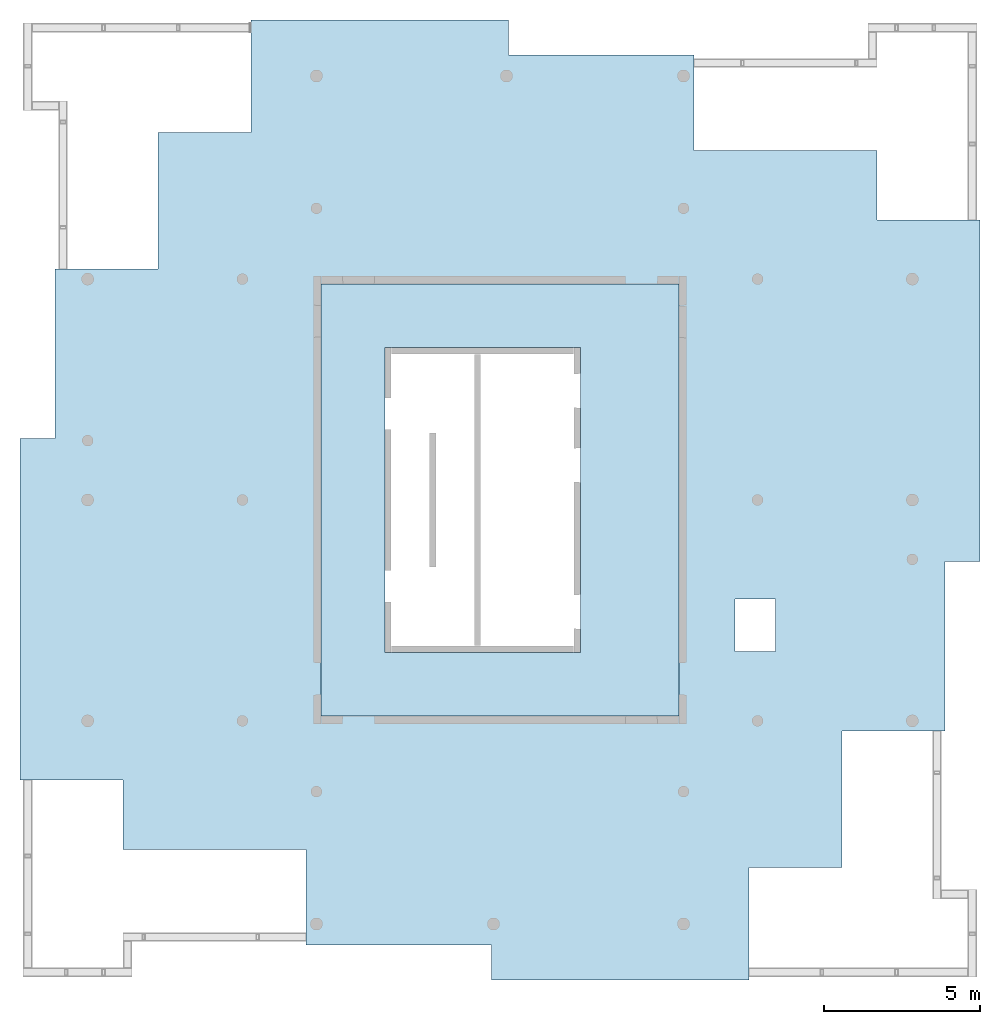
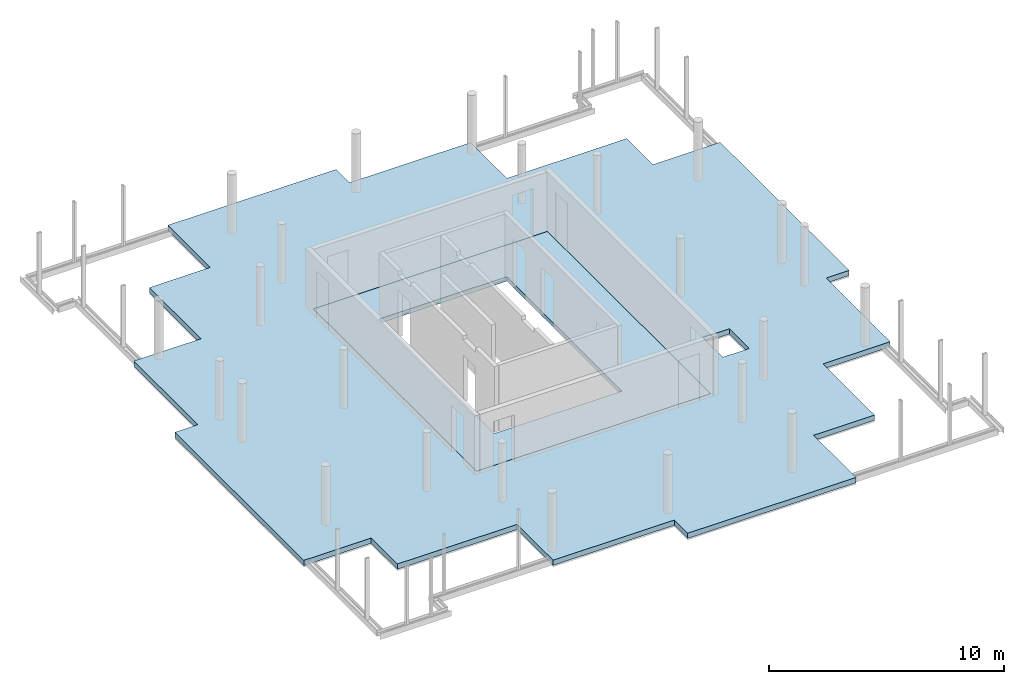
# One storey, part 7 of 7: 2 slabs.
"""IFC2X3 building model written with IfcOpenShell, lengths in millimetres."""

from ifc_helpers import new_model, entity, si_unit, converted_unit, derived_unit, direction, frame, origin, place, context, subcontext, project, spatial, faceted_brep, material, element, save


model = new_model("IFC2X3")

# Units and contexts
model_context = context("Model", 3, precision=0.01, world=origin(), true_north=direction((6.12303176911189e-17, 1.0)))
body_context = subcontext(model_context, "Body", "Model", "MODEL_VIEW")
ifc_project = project(units=[si_unit("LENGTHUNIT", "METRE", prefix="MILLI"), si_unit("AREAUNIT", "SQUARE_METRE"), si_unit("VOLUMEUNIT", "CUBIC_METRE"), converted_unit("PLANEANGLEUNIT", "DEGREE", entity("IfcRatioMeasure", 0.0174532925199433), si_unit("PLANEANGLEUNIT", "RADIAN"), dimensions=[0, 0, 0, 0, 0, 0, 0]), si_unit("MASSUNIT", "GRAM", prefix="KILO"), derived_unit("MASSDENSITYUNIT", [(si_unit("MASSUNIT", "GRAM", prefix="KILO"), 1), (si_unit("LENGTHUNIT", "METRE"), -3)]), si_unit("TIMEUNIT", "SECOND"), si_unit("FREQUENCYUNIT", "HERTZ"), si_unit("THERMODYNAMICTEMPERATUREUNIT", "DEGREE_CELSIUS"), derived_unit("THERMALTRANSMITTANCEUNIT", [(si_unit("MASSUNIT", "GRAM", prefix="KILO"), 1), (si_unit("THERMODYNAMICTEMPERATUREUNIT", "KELVIN"), -1), (si_unit("TIMEUNIT", "SECOND"), -3)]), derived_unit("VOLUMETRICFLOWRATEUNIT", [(si_unit("LENGTHUNIT", "METRE"), 3), (si_unit("TIMEUNIT", "SECOND"), -1)]), si_unit("ELECTRICCURRENTUNIT", "AMPERE"), si_unit("ELECTRICVOLTAGEUNIT", "VOLT"), si_unit("POWERUNIT", "WATT"), si_unit("FORCEUNIT", "NEWTON", prefix="KILO"), si_unit("ILLUMINANCEUNIT", "LUX"), si_unit("LUMINOUSFLUXUNIT", "LUMEN"), si_unit("LUMINOUSINTENSITYUNIT", "CANDELA"), derived_unit("USERDEFINED", [(si_unit("MASSUNIT", "GRAM", prefix="KILO"), -1), (si_unit("LENGTHUNIT", "METRE"), -2), (si_unit("TIMEUNIT", "SECOND"), 3), (si_unit("LUMINOUSFLUXUNIT", "LUMEN"), 1)]), derived_unit("LINEARVELOCITYUNIT", [(si_unit("LENGTHUNIT", "METRE"), 1), (si_unit("TIMEUNIT", "SECOND"), -1)]), si_unit("PRESSUREUNIT", "PASCAL"), derived_unit("USERDEFINED", [(si_unit("LENGTHUNIT", "METRE"), -2), (si_unit("MASSUNIT", "GRAM", prefix="KILO"), 1), (si_unit("TIMEUNIT", "SECOND"), -2)])], contexts=[model_context])

# Site, building, storey
site_placement = place(None, origin())
site = spatial("IfcSite", under=ifc_project, at=site_placement, Name="Default", CompositionType="ELEMENT")
building_placement = place(site_placement, origin())
building = spatial("IfcBuilding", under=site, at=building_placement, Name="niet gebruiken", CompositionType="ELEMENT")
storey_placement = place(building_placement, frame((0.0, 0.0, 168300.0)))
storey = spatial("IfcBuildingStorey", under=building, at=storey_placement, Name="54 vierenvijftigste verdieping", CompositionType="ELEMENT", Elevation=168300.0)

# Slabs
ifc_material = material(Name="NLRS_f2_beton ihwg")
slab_1_placement = place(storey_placement, origin())
element("IfcSlab", 1, at=slab_1_placement, inside=storey, material=ifc_material, Name="Floor:NLRS_23.21_FL_vloer d=350_gen", ObjectType="Floor:NLRS_23.21_FL_vloer d=350_gen", PredefinedType="FLOOR", context=body_context, shape_type="Brep", body=[
    faceted_brep([(136000.0, 24450.0, -440.0), (136000.0, 10550.0, -440.0), (147500.0, 10550.0, -440.0), (147500.0, 24450.0, -440.0), (135710.0, 10260.0, -440.0), (135710.0, 24740.0, -440.0), (147790.0, 24740.0, -440.0), (147790.0, 10260.0, -440.0), (127451.0, 24930.0, -90.0), (127451.0, 19474.0, -90.0), (126320.0, 19474.0, -90.0), (126320.0, 8495.0, -90.0), (129630.0, 8495.0, -90.0), (129630.0, 6270.0, -90.0), (135520.0, 6270.0, -90.0), (135520.0, 3201.0, -90.0), (141476.0, 3201.0, -90.0), (141476.0, 2070.0, -90.0), (149755.0, 2070.0, -90.0), (149755.0, 5685.0, -90.0), (152750.0, 5685.0, -90.0), (152750.0, 10070.0, -90.0), (156049.0, 10070.0, -90.0), (156049.0, 15526.0, -90.0), (157180.0, 15526.0, -90.0), (157180.0, 26505.0, -90.0), (153870.0, 26505.0, -90.0), (153870.0, 28730.0, -90.0), (147980.0, 28730.0, -90.0), (147980.0, 31799.0, -90.0), (142024.0, 31799.0, -90.0), (142024.0, 32930.0, -90.0), (133745.0, 32930.0, -90.0), (133745.0, 29315.0, -90.0), (130750.0, 29315.0, -90.0), (130750.0, 24930.0, -90.0), (136000.0, 10550.0, -90.0), (136000.0, 24450.0, -90.0), (147500.0, 24450.0, -90.0), (147500.0, 10550.0, -90.0), (149300.0, 14325.0, -90.0), (150600.0, 14325.0, -90.0), (150600.0, 12635.0, -90.0), (149300.0, 12635.0, -90.0), (127451.0, 24930.0, -360.0), (127451.0, 19474.0, -360.0), (133745.0, 29315.0, -360.0), (130750.0, 29315.0, -360.0), (133745.0, 32930.0, -360.0), (142024.0, 32930.0, -360.0), (142024.0, 31799.0, -360.0), (147980.0, 31799.0, -360.0), (147980.0, 28730.0, -360.0), (157180.0, 26505.0, -360.0), (153870.0, 26505.0, -360.0), (157180.0, 15526.0, -360.0), (156049.0, 15526.0, -360.0), (156049.0, 10070.0, -360.0), (152750.0, 10070.0, -360.0), (152750.0, 5685.0, -360.0), (149755.0, 5685.0, -360.0), (149755.0, 2070.0, -360.0), (141476.0, 2070.0, -360.0), (141476.0, 3201.0, -360.0), (135520.0, 3201.0, -360.0), (135520.0, 6270.0, -360.0), (129630.0, 6270.0, -360.0), (126320.0, 19474.0, -360.0), (126320.0, 8495.0, -360.0), (129630.0, 8495.0, -360.0), (130750.0, 24930.0, -360.0), (153870.0, 28730.0, -360.0), (149300.0, 14325.0, -360.0), (150600.0, 14325.0, -360.0), (149300.0, 12635.0, -360.0), (150600.0, 12635.0, -360.0), (147790.0, 24740.0, -360.0), (135710.0, 24740.0, -360.0), (135710.0, 10260.0, -360.0), (147790.0, 10260.0, -360.0)], [[[0, 1, 2, 3], [4, 5, 6, 7]], [[8, 9, 10, 11, 12, 13, 14, 15, 16, 17, 18, 19, 20, 21, 22, 23, 24, 25, 26, 27, 28, 29, 30, 31, 32, 33, 34, 35], [36, 37, 38, 39], [40, 41, 42, 43]], [[9, 8, 44, 45]], [[34, 33, 46, 47]], [[33, 32, 48, 46]], [[32, 31, 49, 48]], [[31, 30, 50, 49]], [[30, 29, 51, 50]], [[29, 28, 52, 51]], [[26, 25, 53, 54]], [[25, 24, 55, 53]], [[24, 23, 56, 55]], [[23, 22, 57, 56]], [[22, 21, 58, 57]], [[21, 20, 59, 58]], [[20, 19, 60, 59]], [[19, 18, 61, 60]], [[18, 17, 62, 61]], [[17, 16, 63, 62]], [[16, 15, 64, 63]], [[15, 14, 65, 64]], [[14, 13, 66, 65]], [[11, 10, 67, 68]], [[10, 9, 45, 67]], [[1, 0, 37, 36]], [[2, 1, 36, 39]], [[3, 2, 39, 38]], [[0, 3, 38, 37]], [[13, 12, 69, 66]], [[12, 11, 68, 69]], [[8, 35, 70, 44]], [[35, 34, 47, 70]], [[28, 27, 71, 52]], [[27, 26, 54, 71]], [[41, 40, 72, 73]], [[40, 43, 74, 72]], [[43, 42, 75, 74]], [[42, 41, 73, 75]], [[45, 44, 70, 47, 46, 48, 49, 50, 51, 52, 71, 54, 53, 55, 56, 57, 58, 59, 60, 61, 62, 63, 64, 65, 66, 69, 68, 67], [73, 72, 74, 75], [76, 77, 78, 79]], [[78, 77, 5, 4]], [[79, 78, 4, 7]], [[76, 79, 7, 6]], [[77, 76, 6, 5]]], outer=[[False, True], [True, False, False], [True], [True], [True], [True], [True], [True], [True], [True], [True], [True], [True], [True], [True], [True], [True], [True], [True], [True], [True], [True], [True], [True], [True], [True], [True], [True], [True], [True], [True], [True], [True], [True], [True], [True], [True], [True], [True, False, False], [True], [True], [True], [True]]),
])
slab_2_placement = place(storey_placement, origin())
element("IfcSlab", 2, at=slab_2_placement, inside=storey, Name="Floor:NLRS_23.21_FL_vloer=230_gen", ObjectType="Floor:NLRS_23.21_FL_vloer=230_gen", PredefinedType="FLOOR", context=body_context, shape_type="Brep", body=[
    faceted_brep([(144330.0, 22400.0, -320.0), (138050.0, 22400.0, -320.0), (138050.0, 12600.0, -320.0), (144330.0, 12600.0, -320.0), (138040.0, 22410.0, -320.0), (144340.0, 22410.0, -320.0), (144340.0, 12590.0, -320.0), (138040.0, 12590.0, -320.0), (147500.0, 10550.0, -90.0), (147500.0, 24450.0, -90.0), (136000.0, 24450.0, -90.0), (136000.0, 10550.0, -90.0), (138050.0, 22400.0, -90.0), (144330.0, 22400.0, -90.0), (144330.0, 12600.0, -90.0), (138050.0, 12600.0, -90.0), (147500.0, 10550.0, -260.0), (147500.0, 24450.0, -260.0), (136000.0, 10550.0, -260.0), (136000.0, 24450.0, -260.0), (144340.0, 12590.0, -260.0), (144340.0, 22410.0, -260.0), (138040.0, 22410.0, -260.0), (138040.0, 12590.0, -260.0)], [[[0, 1, 2, 3], [4, 5, 6, 7]], [[8, 9, 10, 11], [12, 13, 14, 15]], [[9, 8, 16, 17]], [[8, 11, 18, 16]], [[11, 10, 19, 18]], [[10, 9, 17, 19]], [[1, 0, 13, 12]], [[2, 1, 12, 15]], [[3, 2, 15, 14]], [[0, 3, 14, 13]], [[17, 16, 18, 19], [20, 21, 22, 23]], [[22, 21, 5, 4]], [[23, 22, 4, 7]], [[20, 23, 7, 6]], [[21, 20, 6, 5]]], outer=[[False, True], [True, False], [True], [True], [True], [True], [True], [True], [True], [True], [True, False], [True], [True], [True], [True]]),
])

save(model, "model.ifc")
